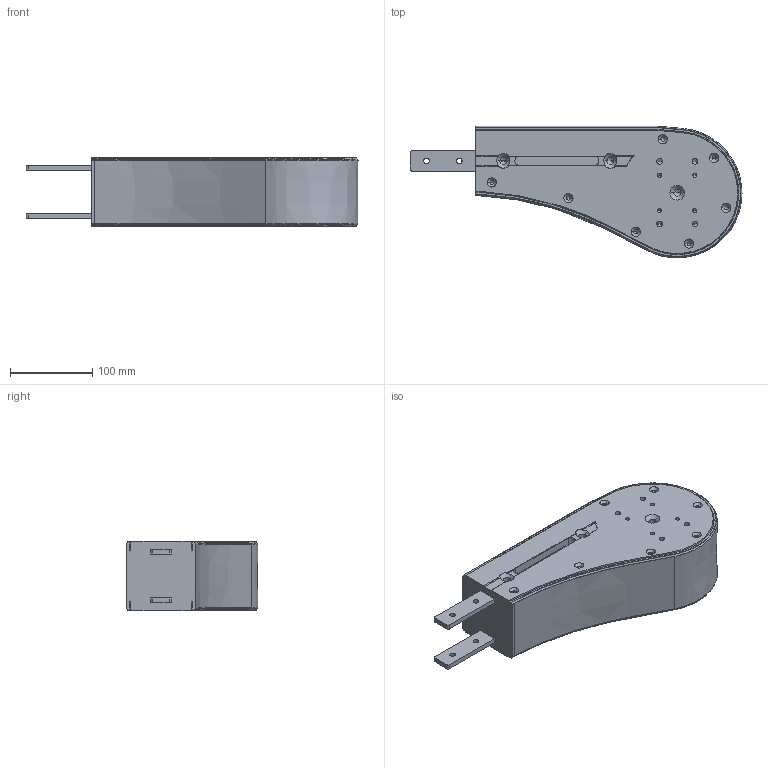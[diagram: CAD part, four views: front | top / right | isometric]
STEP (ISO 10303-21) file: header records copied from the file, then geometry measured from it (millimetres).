
FILE_DESCRIPTION (( 'STEP AP214' ), '1' );
FILE_NAME ('FMIE A85.step', '2017-04-07T11:08:44', ( '' ), ( '' ), 'SwSTEP 2.0', 'SolidWorks 2016', '' );
FILE_SCHEMA (( 'AUTOMOTIVE_DESIGN' ));
Length unit declared in the file: millimetre
Products named in the file (1): FMIE A85
Bounding box: 403.75 x 159.98 x 85 mm (x, y, z)
Volume: 3187845.5 mm3; surface area: 196787.7 mm2
Topology: 1 solids, 1 shells, 378 faces, 918 edges, 496 vertices
Faces by surface type: cylinder 118, cone 112, plane 65, bspline 57, sphere 16, torus 10
Entity records: 14691 total; most frequent: CARTESIAN_POINT 5329, ORIENTED_EDGE 1676, DIRECTION 1661, EDGE_CURVE 838, AXIS2_PLACEMENT_3D 632, VERTEX_POINT 496, EDGE_LOOP 420, LINE 397
